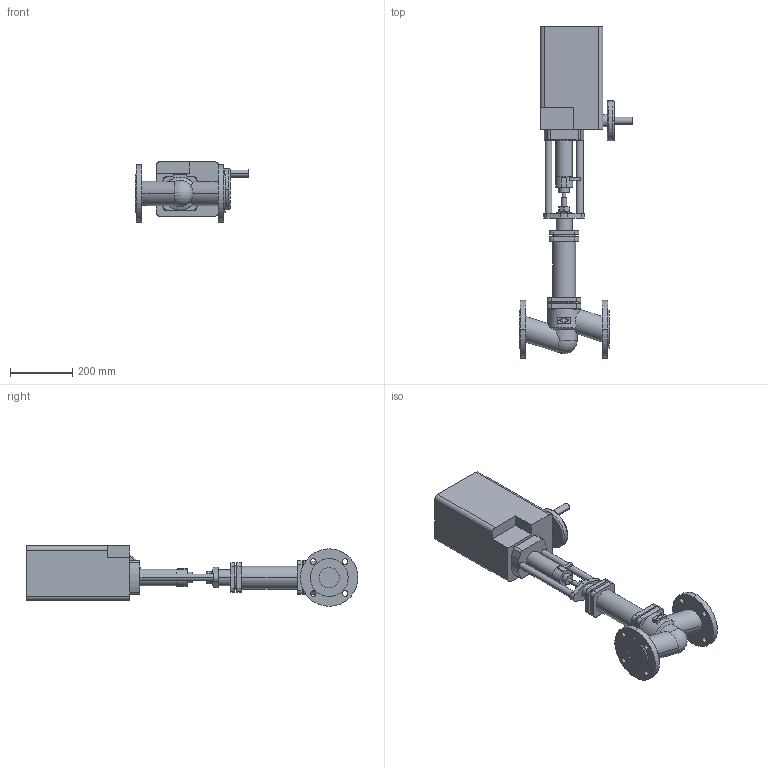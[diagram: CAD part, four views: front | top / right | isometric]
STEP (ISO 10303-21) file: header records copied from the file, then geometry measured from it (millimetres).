
FILE_DESCRIPTION( ( '' ), '1' );
FILE_NAME( 'F:/DE-SHS/TB/OR/04-Sonstiges/daten/files_3d/441-PN16-PREMIO/c000002071.stp', '2013-06-20T10:45:24', ( '' ), ( '' ), ' ', ' ', ' ' );
FILE_SCHEMA( ( 'CONFIG_CONTROL_DESIGN' ) );
Length unit declared in the file: millimetre
Products named in the file (2): 1; 2
Bounding box: 366.5 x 1067.5 x 195 mm (x, y, z)
Volume: 17273149.9 mm3; surface area: 767810.2 mm2
Topology: 2 solids, 2 shells, 214 faces, 534 edges, 355 vertices
Faces by surface type: cylinder 104, plane 103, torus 4, cone 2, sphere 1
Entity records: 7084 total; most frequent: CARTESIAN_POINT 1635, DIRECTION 1186, ORIENTED_EDGE 1064, EDGE_CURVE 532, AXIS2_PLACEMENT_3D 452, VERTEX_POINT 355, LINE 282, VECTOR 282
